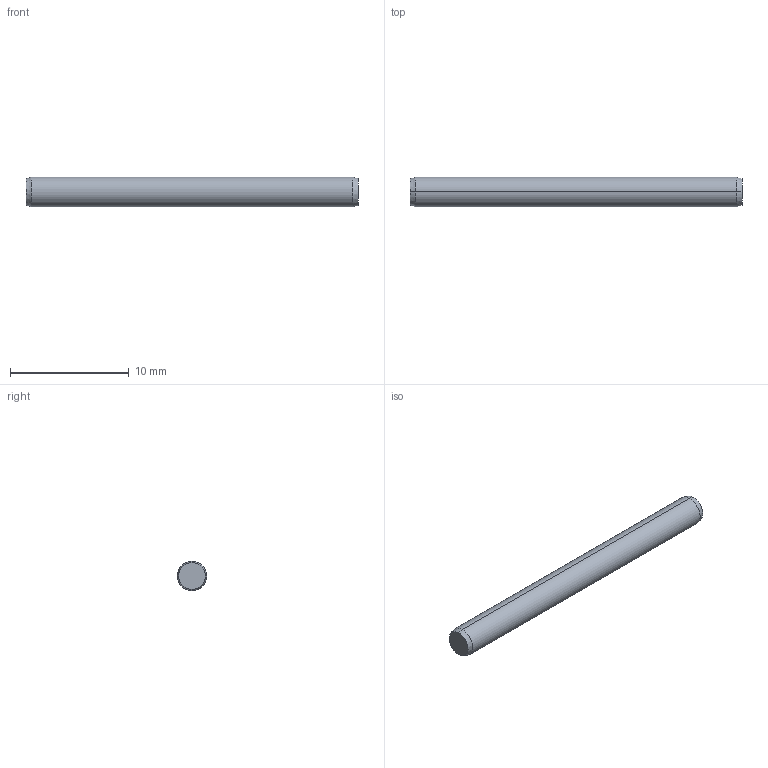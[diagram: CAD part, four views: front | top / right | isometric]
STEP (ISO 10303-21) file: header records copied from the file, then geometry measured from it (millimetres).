
FILE_DESCRIPTION (( 'STEP AP203' ), '1' );
FILE_NAME ('P1206.025-028.step', '2017-06-14T08:02:02', ( 'User' ), ( '' ), 'SwSTEP 2.0', 'SolidWorks 2009', '' );
FILE_SCHEMA (( 'CONFIG_CONTROL_DESIGN' ));
Length unit declared in the file: millimetre
Products named in the file (1): P1206.025-028
Bounding box: 28 x 2.5 x 2.5 mm (x, y, z)
Volume: 137 mm3; surface area: 227.8 mm2
Topology: 1 solids, 1 shells, 8 faces, 14 edges, 8 vertices
Faces by surface type: cone 4, cylinder 2, plane 2
Entity records: 271 total; most frequent: DIRECTION 40, CARTESIAN_POINT 31, ORIENTED_EDGE 28, AXIS2_PLACEMENT_3D 17, EDGE_CURVE 14, FACE_OUTER_BOUND 8, ADVANCED_FACE 8, EDGE_LOOP 8
